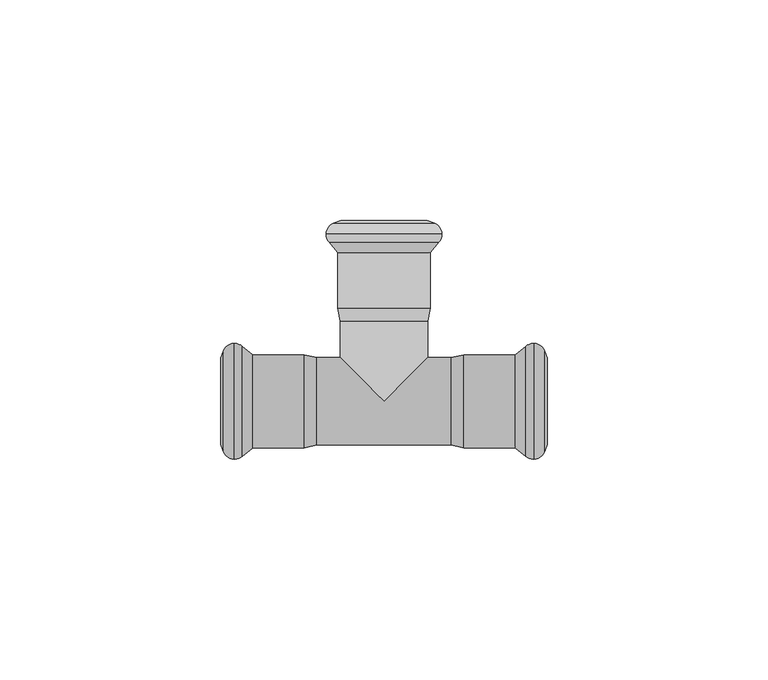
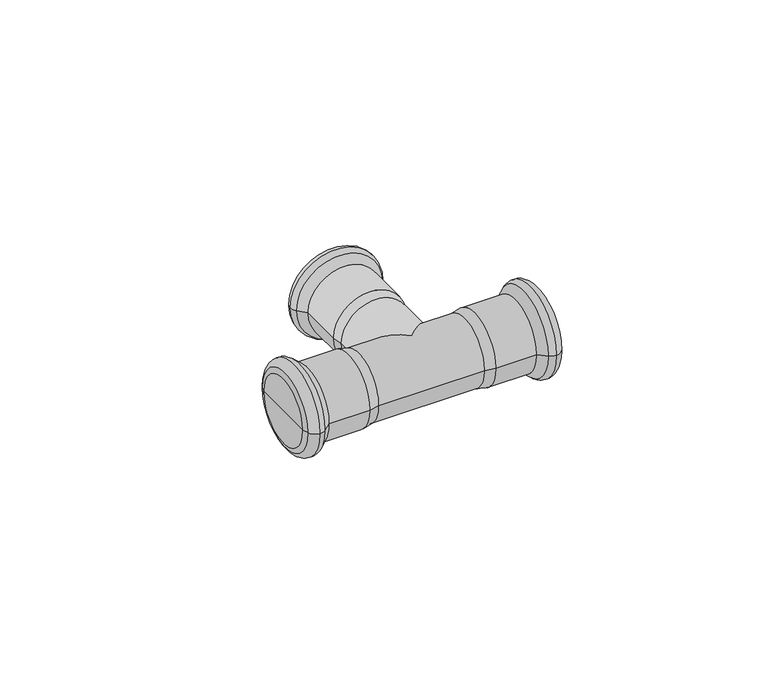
"""IFC4 building model written with IfcOpenShell, lengths in millimetres: pipe fitting geometry, KAN-therm Inox trójnik : KAN-therm Inox trójnik."""

from ifc_helpers import new_model, si_unit, point, frame, origin, place, context, project, spatial, polyline, circle_curve, ellipse_curve, trimmed, source, transform, mapped, element, save
from ifc_brep_helpers import plane_surface, cylinder_surface, revolved_surface, advanced_brep


def pipe_fitting_659a0c57(model_context):
    return source(origin(), model_context, "Body", "AdvancedBrep", [
        advanced_brep(
        [(32.0922627, -12.4370225, 0.0), (32.0922627, 12.4370225, 0.0), (33.8921278, 13.125, 0.0), (33.8921278, -13.125, 0.0), (29.7838092, -10.5, 0.0), (29.7838092, 10.5, 0.0), (18.1180407, -10.5, 0.0), (18.1180407, 10.5, 0.0), (15.2, -9.9, 0.0), (15.2, 9.9, 0.0), (-15.2, -9.9, 0.0), (-15.2, 9.9, 0.0), (-9.9, 9.9, 0.0), (0.0, 0.0, -9.9), (9.9, 9.9, 0.0), (0.0, 0.0, 9.9), (-18.1180407, -10.5, 0.0), (-18.1180407, 10.5, 0.0), (-29.7838092, -10.5, 0.0), (-29.7838092, 10.5, 0.0), (-32.0922627, -12.4370225, 0.0), (-32.0922627, 12.4370225, 0.0), (-33.8921278, -13.125, 0.0), (-33.8921278, 13.125, 0.0), (-36.432052, -11.3484544, 0.0), (-36.432052, 11.3484544, 0.0), (-37.0, -9.7880302, 0.0), (-37.0, 9.7880302, 0.0), (-37.0, 0.0, 0.0), (37.0, -9.7880302, 0.0), (37.0, 9.7880302, 0.0), (37.0, 0.0, 0.0), (36.432052, -11.3484544, 0.0), (36.432052, 11.3484544, 0.0), (12.4370225, 36.0922627, 0.0), (-12.4370225, 36.0922627, 0.0), (-13.125, 37.8921278, 0.0), (13.125, 37.8921278, 0.0), (10.5, 33.7838092, 0.0), (-10.5, 33.7838092, 0.0), (10.5, 21.1180407, 0.0), (-10.5, 21.1180407, 0.0), (9.7880302, 41.0, 0.0), (-9.7880302, 41.0, 0.0), (0.0, 41.0, 0.0), (11.3484544, 40.432052, 0.0), (-11.3484544, 40.432052, 0.0), (9.9, 18.2, 0.0), (-9.9, 18.2, 0.0)],
        [
            (0, 1, circle_curve(frame((32.0922627, 0.0, 0.0), z_axis=(1.0, 0.0, 0.0), x_axis=(0.0, 1.0, 0.0)), 12.4370225)),
            (1, 2, circle_curve(frame((33.8935049, 10.4230333, 0.0), z_axis=(0.0, 0.0, -1.0), x_axis=(1.0, 0.0, 0.0)), 2.701967)),
            (2, 3, circle_curve(frame((33.8921278, 0.0, 0.0), z_axis=(-1.0, 0.0, 0.0), x_axis=(0.0, 1.0, 0.0)), 13.125)),
            (3, 0, circle_curve(frame((33.8935049, -10.4230333, 0.0), z_axis=(0.0, 0.0, -1.0), x_axis=(1.0, 0.0, 0.0)), 2.701967)),
            (1, 0, circle_curve(frame((32.0922627, 0.0, 0.0), z_axis=(1.0, 0.0, 0.0), x_axis=(0.0, 1.0, 0.0)), 12.4370225)),
            (3, 2, circle_curve(frame((33.8921278, 0.0, 0.0), z_axis=(-1.0, 0.0, 0.0), x_axis=(0.0, 1.0, 0.0)), 13.125)),
            (0, 4),
            (4, 5, circle_curve(frame((29.7838092, 0.0, 0.0), z_axis=(1.0, 0.0, 0.0), x_axis=(0.0, 1.0, 0.0)), 10.5)),
            (5, 1),
            (5, 4, circle_curve(frame((29.7838092, 0.0, 0.0), z_axis=(1.0, 0.0, 0.0), x_axis=(0.0, 1.0, 0.0)), 10.5)),
            (4, 6),
            (6, 7, circle_curve(frame((18.1180407, 0.0, 0.0), z_axis=(1.0, 0.0, 0.0), x_axis=(0.0, 1.0, 0.0)), 10.5)),
            (7, 5),
            (7, 6, circle_curve(frame((18.1180407, 0.0, 0.0), z_axis=(1.0, 0.0, 0.0), x_axis=(0.0, 1.0, 0.0)), 10.5)),
            (6, 8),
            (8, 9, circle_curve(frame((15.2, 0.0, 0.0), z_axis=(1.0, 0.0, 0.0), x_axis=(0.0, 1.0, 0.0)), 9.9)),
            (9, 7),
            (9, 8, circle_curve(frame((15.2, 0.0, 0.0), z_axis=(1.0, 0.0, 0.0), x_axis=(0.0, 1.0, 0.0)), 9.9)),
            (8, 10),
            (10, 11, circle_curve(frame((-15.2, 0.0, 0.0), z_axis=(1.0, 0.0, 0.0), x_axis=(0.0, 1.0, 0.0)), 9.9)),
            (11, 12),
            (12, 13, ellipse_curve(frame((0.0, 0.0, 0.0), z_axis=(-0.7071067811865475, -0.7071067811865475, 0.0), x_axis=(-0.7071067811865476, 0.7071067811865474, 0.0)), 14.0007143, 9.9)),
            (13, 14, ellipse_curve(frame((0.0, 0.0, 0.0), z_axis=(0.7071067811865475, -0.7071067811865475, 0.0), x_axis=(-0.7071067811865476, -0.7071067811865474, 0.0)), 14.0007143, 9.9)),
            (14, 9),
            (14, 15, ellipse_curve(frame((0.0, 0.0, 0.0), z_axis=(0.7071067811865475, -0.7071067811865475, 0.0), x_axis=(-0.7071067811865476, -0.7071067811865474, 0.0)), 14.0007143, 9.9)),
            (15, 12, ellipse_curve(frame((0.0, 0.0, 0.0), z_axis=(-0.7071067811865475, -0.7071067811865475, 0.0), x_axis=(-0.7071067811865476, 0.7071067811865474, 0.0)), 14.0007143, 9.9)),
            (11, 10, circle_curve(frame((-15.2, 0.0, 0.0), z_axis=(1.0, 0.0, 0.0), x_axis=(0.0, 1.0, 0.0)), 9.9)),
            (10, 16),
            (16, 17, circle_curve(frame((-18.1180407, 0.0, 0.0), z_axis=(1.0, 0.0, 0.0), x_axis=(0.0, 1.0, 0.0)), 10.5)),
            (17, 11),
            (17, 16, circle_curve(frame((-18.1180407, 0.0, 0.0), z_axis=(1.0, 0.0, 0.0), x_axis=(0.0, 1.0, 0.0)), 10.5)),
            (16, 18),
            (18, 19, circle_curve(frame((-29.7838092, 0.0, 0.0), z_axis=(1.0, 0.0, 0.0), x_axis=(0.0, 1.0, 0.0)), 10.5)),
            (19, 17),
            (19, 18, circle_curve(frame((-29.7838092, 0.0, 0.0), z_axis=(1.0, 0.0, 0.0), x_axis=(0.0, 1.0, 0.0)), 10.5)),
            (18, 20),
            (20, 21, circle_curve(frame((-32.0922627, 0.0, 0.0), z_axis=(1.0, 0.0, 0.0), x_axis=(0.0, 1.0, 0.0)), 12.4370225)),
            (21, 19),
            (21, 20, circle_curve(frame((-32.0922627, 0.0, 0.0), z_axis=(1.0, 0.0, 0.0), x_axis=(0.0, 1.0, 0.0)), 12.4370225)),
            (20, 22, circle_curve(frame((-33.8935049, -10.4230333, 0.0), z_axis=(0.0, 0.0, -1.0), x_axis=(1.0, 0.0, 0.0)), 2.701967)),
            (22, 23, circle_curve(frame((-33.8921278, 0.0, 0.0), z_axis=(1.0, 0.0, 0.0), x_axis=(0.0, 1.0, 0.0)), 13.125)),
            (23, 21, circle_curve(frame((-33.8935049, 10.4230333, 0.0), z_axis=(0.0, 0.0, -1.0), x_axis=(1.0, 0.0, 0.0)), 2.701967)),
            (23, 22, circle_curve(frame((-33.8921278, 0.0, 0.0), z_axis=(1.0, 0.0, 0.0), x_axis=(0.0, 1.0, 0.0)), 13.125)),
            (22, 24, circle_curve(frame((-33.89488, -10.4249993, 0.0), z_axis=(0.0, 0.0, -1.0), x_axis=(1.0, 0.0, 0.0)), 2.7000021)),
            (24, 25, circle_curve(frame((-36.432052, 0.0, 0.0), z_axis=(1.0, 0.0, 0.0), x_axis=(0.0, 1.0, 0.0)), 11.3484544)),
            (25, 23, circle_curve(frame((-33.89488, 10.4249993, 0.0), z_axis=(0.0, 0.0, -1.0), x_axis=(1.0, 0.0, 0.0)), 2.7000021)),
            (25, 24, circle_curve(frame((-36.432052, 0.0, 0.0), z_axis=(1.0, 0.0, 0.0), x_axis=(0.0, 1.0, 0.0)), 11.3484544)),
            (24, 26),
            (26, 27, circle_curve(frame((-37.0, 0.0, 0.0), z_axis=(1.0, 0.0, 0.0), x_axis=(0.0, 1.0, 0.0)), 9.7880302)),
            (27, 25),
            (27, 26, circle_curve(frame((-37.0, 0.0, 0.0), z_axis=(1.0, 0.0, 0.0), x_axis=(0.0, 1.0, 0.0)), 9.7880302)),
            (26, 28),
            (28, 27),
            (29, 30, circle_curve(frame((37.0, 0.0, 0.0), z_axis=(1.0, 0.0, 0.0), x_axis=(0.0, 1.0, 0.0)), 9.7880302)),
            (30, 31),
            (31, 29),
            (30, 29, circle_curve(frame((37.0, 0.0, 0.0), z_axis=(1.0, 0.0, 0.0), x_axis=(0.0, 1.0, 0.0)), 9.7880302)),
            (29, 32),
            (32, 33, circle_curve(frame((36.432052, 0.0, 0.0), z_axis=(1.0, 0.0, 0.0), x_axis=(0.0, 1.0, 0.0)), 11.3484544)),
            (33, 30),
            (33, 32, circle_curve(frame((36.432052, 0.0, 0.0), z_axis=(1.0, 0.0, 0.0), x_axis=(0.0, 1.0, 0.0)), 11.3484544)),
            (2, 33, circle_curve(frame((33.89488, 10.4249993, 0.0), z_axis=(0.0, 0.0, -1.0), x_axis=(1.0, 0.0, 0.0)), 2.7000021)),
            (32, 3, circle_curve(frame((33.89488, -10.4249993, 0.0), z_axis=(0.0, 0.0, -1.0), x_axis=(1.0, 0.0, 0.0)), 2.7000021)),
            (34, 35, circle_curve(frame((0.0, 36.0922627, 0.0), z_axis=(0.0, 1.0, 0.0), x_axis=(-1.0, 0.0, 0.0)), 12.4370225)),
            (35, 36, circle_curve(frame((-10.4230333, 37.8935049, 0.0), z_axis=(0.0, 0.0, -1.0), x_axis=(1.0, 0.0, 0.0)), 2.701967)),
            (36, 37, circle_curve(frame((0.0, 37.8921278, 0.0), z_axis=(0.0, -1.0, 0.0), x_axis=(-1.0, 0.0, 0.0)), 13.125)),
            (37, 34, circle_curve(frame((10.4230333, 37.8935049, 0.0), z_axis=(0.0, 0.0, -1.0), x_axis=(-1.0, 0.0, 0.0)), 2.701967)),
            (35, 34, circle_curve(frame((0.0, 36.0922627, 0.0), z_axis=(0.0, 1.0, 0.0), x_axis=(-1.0, 0.0, 0.0)), 12.4370225)),
            (37, 36, circle_curve(frame((0.0, 37.8921278, 0.0), z_axis=(0.0, -1.0, 0.0), x_axis=(-1.0, 0.0, 0.0)), 13.125)),
            (34, 38),
            (38, 39, circle_curve(frame((0.0, 33.7838092, 0.0), z_axis=(0.0, 1.0, 0.0), x_axis=(-1.0, 0.0, 0.0)), 10.5)),
            (39, 35),
            (39, 38, circle_curve(frame((0.0, 33.7838092, 0.0), z_axis=(0.0, 1.0, 0.0), x_axis=(-1.0, 0.0, 0.0)), 10.5)),
            (38, 40),
            (40, 41, circle_curve(frame((0.0, 21.1180407, 0.0), z_axis=(0.0, 1.0, 0.0), x_axis=(-1.0, 0.0, 0.0)), 10.5)),
            (41, 39),
            (41, 40, circle_curve(frame((0.0, 21.1180407, 0.0), z_axis=(0.0, 1.0, 0.0), x_axis=(-1.0, 0.0, 0.0)), 10.5)),
            (42, 43, circle_curve(frame((0.0, 41.0, 0.0), z_axis=(0.0, 1.0, 0.0), x_axis=(-1.0, 0.0, 0.0)), 9.7880302)),
            (43, 44),
            (44, 42),
            (43, 42, circle_curve(frame((0.0, 41.0, 0.0), z_axis=(0.0, 1.0, 0.0), x_axis=(-1.0, 0.0, 0.0)), 9.7880302)),
            (42, 45),
            (45, 46, circle_curve(frame((0.0, 40.432052, 0.0), z_axis=(0.0, 1.0, 0.0), x_axis=(-1.0, 0.0, 0.0)), 11.3484544)),
            (46, 43),
            (46, 45, circle_curve(frame((0.0, 40.432052, 0.0), z_axis=(0.0, 1.0, 0.0), x_axis=(-1.0, 0.0, 0.0)), 11.3484544)),
            (36, 46, circle_curve(frame((-10.4249993, 37.89488, 0.0), z_axis=(0.0, 0.0, -1.0), x_axis=(1.0, 0.0, 0.0)), 2.7000021)),
            (45, 37, circle_curve(frame((10.4249993, 37.89488, 0.0), z_axis=(0.0, 0.0, -1.0), x_axis=(-1.0, 0.0, 0.0)), 2.7000021)),
            (40, 47),
            (47, 48, circle_curve(frame((0.0, 18.2, 0.0), z_axis=(0.0, 1.0, 0.0), x_axis=(-1.0, 0.0, 0.0)), 9.9)),
            (48, 41),
            (48, 47, circle_curve(frame((0.0, 18.2, 0.0), z_axis=(0.0, 1.0, 0.0), x_axis=(-1.0, 0.0, 0.0)), 9.9)),
            (47, 14),
            (12, 48),
        ],
        [
            revolved_surface(trimmed(ellipse_curve(frame((33.8935049, 10.4230333, 0.0), z_axis=(0.0, 0.0, 1.0), x_axis=(1.0, 0.0, 0.0)), 2.701967, 2.701967), [point((33.8921278, 13.125, 0.0))], [point((32.0922627, 12.4370225, 0.0))], True, "CARTESIAN"), (1350.742668, 0.0, 0.0), (-1.0, 0.0, 0.0)),
            revolved_surface(polyline([(32.0922627, 12.4370225, 0.0), (29.7838092, 10.5, 0.0)]), (1350.742668, 0.0, 0.0), (-1.0, 0.0, 0.0)),
            cylinder_surface(frame((1350.742668, 0.0, 0.0), z_axis=(-1.0, 0.0, 0.0), x_axis=(0.0, 1.0, 0.0)), 10.5),
            revolved_surface(polyline([(18.1180407, 10.5, 0.0), (15.2, 9.9, 0.0)]), (1350.742668, 0.0, 0.0), (-1.0, 0.0, 0.0)),
            cylinder_surface(frame((1350.742668, 0.0, 0.0), z_axis=(-1.0, 0.0, 0.0), x_axis=(0.0, 1.0, 0.0)), 9.9),
            revolved_surface(polyline([(-15.2, 9.9, 0.0), (-18.1180407, 10.5, 0.0)]), (1350.742668, 0.0, 0.0), (-1.0, 0.0, 0.0)),
            revolved_surface(polyline([(-29.7838092, 10.5, 0.0), (-32.0922627, 12.4370225, 0.0)]), (1350.742668, 0.0, 0.0), (-1.0, 0.0, 0.0)),
            revolved_surface(trimmed(ellipse_curve(frame((-33.8935049, 10.4230333, 0.0), z_axis=(0.0, 0.0, 1.0), x_axis=(1.0, 0.0, 0.0)), 2.701967, 2.701967), [point((-32.0922627, 12.4370225, 0.0))], [point((-33.8921278, 13.125, 0.0))], True, "CARTESIAN"), (1350.742668, 0.0, 0.0), (-1.0, 0.0, 0.0)),
            revolved_surface(trimmed(ellipse_curve(frame((-33.89488, 10.4249993, 0.0), z_axis=(0.0, 0.0, 1.0), x_axis=(1.0, 0.0, 0.0)), 2.7000021, 2.7000021), [point((-33.8921278, 13.125, 0.0))], [point((-36.432052, 11.3484544, 0.0))], True, "CARTESIAN"), (1350.742668, 0.0, 0.0), (-1.0, 0.0, 0.0)),
            revolved_surface(polyline([(-36.432052, 11.3484544, 0.0), (-37.0, 9.7880302, 0.0)]), (1350.742668, 0.0, 0.0), (-1.0, 0.0, 0.0)),
            plane_surface(frame((-37.0, 0.0, 0.0), z_axis=(-1.0, 0.0, 0.0), x_axis=(0.0, 1.0, 0.0))),
            plane_surface(frame((37.0, 0.0, 0.0), z_axis=(1.0, 0.0, 0.0), x_axis=(0.0, 1.0, 0.0))),
            revolved_surface(polyline([(37.0, 9.7880302, 0.0), (36.432052, 11.3484544, 0.0)]), (1350.742668, 0.0, 0.0), (-1.0, 0.0, 0.0)),
            revolved_surface(trimmed(ellipse_curve(frame((33.89488, 10.4249993, 0.0), z_axis=(0.0, 0.0, 1.0), x_axis=(1.0, 0.0, 0.0)), 2.7000021, 2.7000021), [point((36.432052, 11.3484544, 0.0))], [point((33.8921278, 13.125, 0.0))], True, "CARTESIAN"), (1350.742668, 0.0, 0.0), (-1.0, 0.0, 0.0)),
            revolved_surface(trimmed(ellipse_curve(frame((-10.4230333, 37.8935049, 0.0), z_axis=(0.0, 0.0, 1.0), x_axis=(1.0, 0.0, 0.0)), 2.701967, 2.701967), [point((-13.125, 37.8921278, 0.0))], [point((-12.4370225, 36.0922627, 0.0))], True, "CARTESIAN"), (0.0, 2002.0, 0.0), (0.0, -1.0, 0.0)),
            revolved_surface(polyline([(-12.4370225, 36.0922627, 0.0), (-10.5, 33.7838092, 0.0)]), (0.0, 2002.0, 0.0), (0.0, -1.0, 0.0)),
            cylinder_surface(frame((0.0, 2002.0, 0.0), z_axis=(0.0, -1.0, 0.0), x_axis=(-1.0, 0.0, 0.0)), 10.5),
            plane_surface(frame((0.0, 41.0, 0.0), z_axis=(0.0, 1.0, 0.0), x_axis=(-1.0, 0.0, 0.0))),
            revolved_surface(polyline([(-9.7880302, 41.0, 0.0), (-11.3484544, 40.432052, 0.0)]), (0.0, 2002.0, 0.0), (0.0, -1.0, 0.0)),
            revolved_surface(trimmed(ellipse_curve(frame((-10.4249993, 37.89488, 0.0), z_axis=(0.0, 0.0, 1.0), x_axis=(1.0, 0.0, 0.0)), 2.7000021, 2.7000021), [point((-11.3484544, 40.432052, 0.0))], [point((-13.125, 37.8921278, 0.0))], True, "CARTESIAN"), (0.0, 2002.0, 0.0), (0.0, -1.0, 0.0)),
            revolved_surface(polyline([(-10.5, 21.1180407, 0.0), (-9.9, 18.2, 0.0)]), (0.0, 2002.0, 0.0), (0.0, -1.0, 0.0)),
            cylinder_surface(frame((0.0, 2002.0, 0.0), z_axis=(0.0, -1.0, 0.0), x_axis=(-1.0, 0.0, 0.0)), 9.9),
        ],
        [
            (0, [[1, 2, 3, 4]]),
            (0, [[-2, 5, -4, 6]]),
            (1, [[-1, 7, 8, 9]]),
            (1, [[-5, -9, 10, -7]]),
            (2, [[-8, 11, 12, 13]]),
            (2, [[-10, -13, 14, -11]]),
            (3, [[-12, 15, 16, 17]]),
            (3, [[-14, -17, 18, -15]]),
            (4, [[-16, 19, 20, 21, 22, 23, 24]]),
            (4, [[-18, -24, 25, 26, -21, 27, -19]]),
            (5, [[-20, 28, 29, 30]]),
            (5, [[-27, -30, 31, -28]]),
            (2, [[-29, 32, 33, 34]]),
            (2, [[-31, -34, 35, -32]]),
            (6, [[-33, 36, 37, 38]]),
            (6, [[-35, -38, 39, -36]]),
            (7, [[-37, 40, 41, 42]]),
            (7, [[-39, -42, 43, -40]]),
            (8, [[-41, 44, 45, 46]]),
            (8, [[-43, -46, 47, -44]]),
            (9, [[-45, 48, 49, 50]]),
            (9, [[-47, -50, 51, -48]]),
            (10, [[-49, 52, 53]]),
            (10, [[-51, -53, -52]]),
            (11, [[54, 55, 56]]),
            (11, [[-55, 57, -56]]),
            (12, [[-54, 58, 59, 60]]),
            (12, [[-57, -60, 61, -58]]),
            (13, [[-3, 62, -59, 63]]),
            (13, [[-6, -63, -61, -62]]),
            (14, [[64, 65, 66, 67]]),
            (14, [[-65, 68, -67, 69]]),
            (15, [[-64, 70, 71, 72]]),
            (15, [[-68, -72, 73, -70]]),
            (16, [[-71, 74, 75, 76]]),
            (16, [[-73, -76, 77, -74]]),
            (17, [[78, 79, 80]]),
            (17, [[-79, 81, -80]]),
            (18, [[-78, 82, 83, 84]]),
            (18, [[-81, -84, 85, -82]]),
            (19, [[-66, 86, -83, 87]]),
            (19, [[-69, -87, -85, -86]]),
            (20, [[-75, 88, 89, 90]]),
            (20, [[-77, -90, 91, -88]]),
            (21, [[-89, 92, -23, -22, 93]]),
            (21, [[-91, -93, -26, -25, -92]]),
        ],
    ),
    ])


if __name__ == "__main__":
    model = new_model("IFC4")
    model_context = context("Model", 3, world=origin())
    ifc_project = project(units=[si_unit("LENGTHUNIT", "METRE", prefix="MILLI")], contexts=[model_context])
    site = spatial("IfcSite", under=ifc_project)
    building = spatial("IfcBuilding", under=site)
    placement = place(None, origin())
    pipe_fitting_shape = pipe_fitting_659a0c57(model_context)
    element("IfcPipeFitting", 1, ObjectType="KAN-therm Inox trójnik : KAN-therm Inox trójnik", at=placement, inside=building, context=model_context, shape_type="MappedRepresentation", body=[
        mapped(pipe_fitting_shape, transform((0.0, 0.0, 0.0), x_axis=(1.0, 0.0, 0.0), y_axis=(0.0, 1.0, 0.0), z_axis=(0.0, 0.0, 1.0))),
    ])
    save(model, "model.ifc")
